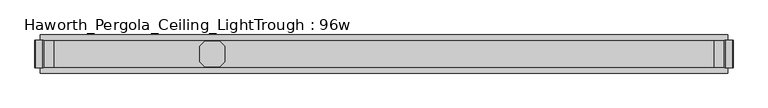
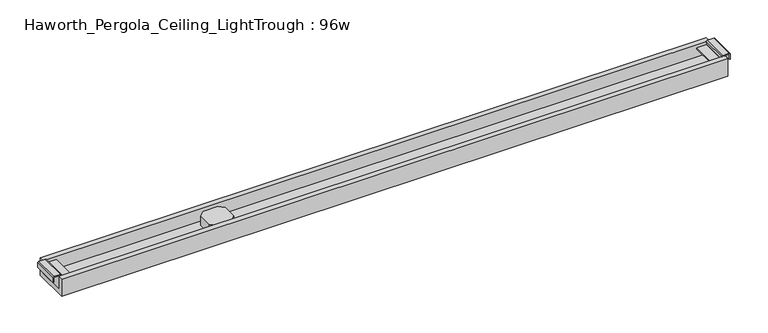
"""IFC4 building model written with IfcOpenShell, lengths in millimetres: furniture geometry, Haworth_Pergola_Ceiling_LightTrough : 96w."""

from ifc_helpers import new_model, si_unit, point, frame, frame_2d, origin, place, context, project, spatial, polyline, circle_curve, trimmed, segment, composite_curve, outline, extrude, source, transform, mapped, element, save


def haworth_pergola_ceiling_lighttrough_96w_28d7c7ed(model_context):
    return source(origin(), model_context, "Body", "SweptSolid", [
        extrude(outline(polyline([(-274.3580002, -26.8840513), (-274.3580002, 26.8840485), (-256.2840485, 44.9580002), (-202.5159516, 44.9580002), (-184.4419998, 26.8840485), (-184.4419998, -26.8840513), (-202.5159516, -44.9580002), (-256.2840485, -44.9580002), (-274.3580002, -26.8840513)])), frame((0.0, 0.0, 2389.4796), z_axis=(0.0, 0.0, 1.0), x_axis=(1.0, 0.0, 0.0)), (0.0, 0.0, 1.0), 38.0999994),
        extrude(outline(composite_curve([segment(polyline([(2418.3545999, 1618.7534303), (2437.4045999, 1618.7534303)]), True, "CONTINUOUS"), segment(trimmed(circle_curve(frame_2d((2437.4045999, 1615.0934293)), 3.660001), [point((2437.4045999, 1618.7534303))], [point((2441.0646008, 1615.0934293))], False, "CARTESIAN"), True, "CONTINUOUS"), segment(polyline([(2441.0646008, 1615.0934293), (2441.0646008, 1591.6934303)]), True, "CONTINUOUS"), segment(trimmed(circle_curve(frame_2d((2437.0478931, 1592.0670697)), 4.0340485), [point((2441.0646008, 1591.6934303))], [point((2437.0478931, 1588.0330212))], False, "CARTESIAN"), True, "CONTINUOUS"), segment(polyline([(2437.0478931, 1588.0330212), (2426.6645986, 1588.0330212), (2425.6646, 1587.0330226), (2425.6646, 1551.5434301), (2423.0046, 1551.5434301), (2423.0046, 1587.0334301), (2423.0046, 1597.4999999), (2389.4796, 1597.4999999), (2389.4796, 1599.4), (2437.0478931, 1599.4), (2437.0478931, 1597.4999999), (2426.6645986, 1597.4999999), (2426.6645986, 1590.69343), (2437.0478931, 1590.69343), (2438.4045979, 1591.6934303), (2438.4045979, 1615.0934316), (2437.4045999, 1616.0934296), (2418.3545999, 1616.0934296), (2418.3545999, 1618.7534303)]), True, "CONTINUOUS")], self_intersect=False)), frame((0.0, -48.650001, 0.0), z_axis=(0.0, 1.0, 0.0), x_axis=(0.0, 0.0, 1.0)), (0.0, 0.0, 1.0), 97.3000021),
        extrude(outline(composite_curve([segment(polyline([(2418.3545999, -858.3534303), (2418.3545999, -855.6934296), (2437.4045999, -855.6934296), (2438.4045979, -854.6934316), (2438.4045979, -831.2934303), (2437.0478931, -830.29343), (2426.6645986, -830.29343), (2426.6645986, -837.1), (2437.0478931, -837.1), (2437.0478931, -839.0), (2389.4796, -839.0), (2389.4796, -837.1), (2423.0046, -837.1), (2423.0046, -826.6334301), (2423.0046, -791.1434301), (2425.6646, -791.1434301), (2425.6646, -826.6330226), (2426.6645986, -827.6330212), (2437.0478931, -827.6330212)]), True, "CONTINUOUS"), segment(trimmed(circle_curve(frame_2d((2437.0478931, -831.6670697)), 4.0340485), [point((2437.0478931, -827.6330212))], [point((2441.0646008, -831.2934303))], False, "CARTESIAN"), True, "CONTINUOUS"), segment(polyline([(2441.0646008, -831.2934303), (2441.0646008, -854.6934294)]), True, "CONTINUOUS"), segment(trimmed(circle_curve(frame_2d((2437.4045999, -854.6934294)), 3.660001), [point((2441.0646008, -854.6934294))], [point((2437.4045999, -858.3534303))], False, "CARTESIAN"), True, "CONTINUOUS"), segment(polyline([(2437.4045999, -858.3534303), (2418.3545999, -858.3534303)]), True, "CONTINUOUS")], self_intersect=False)), frame((0.0, -48.650001, 0.0), z_axis=(0.0, 1.0, 0.0), x_axis=(0.0, 0.0, 1.0)), (0.0, 0.0, 1.0), 97.3000021),
        extrude(outline(polyline([(-67.700001, 2370.4296), (-67.700001, 2437.0478931), (-48.650001, 2437.0478931), (-48.650001, 2389.4796), (48.650001, 2389.4796), (48.650001, 2437.0478931), (67.700001, 2437.0478931), (67.700001, 2370.4296), (-67.700001, 2370.4296)])), frame((-839.0, 0.0, 0.0), z_axis=(1.0, 0.0, 0.0), x_axis=(0.0, 1.0, 0.0)), (0.0, 0.0, 1.0), 2438.4),
    ])


if __name__ == "__main__":
    model = new_model("IFC4")
    model_context = context("Model", 3, world=origin())
    ifc_project = project(units=[si_unit("LENGTHUNIT", "METRE", prefix="MILLI")], contexts=[model_context])
    site = spatial("IfcSite", under=ifc_project)
    building = spatial("IfcBuilding", under=site)
    placement = place(None, origin())
    haworth_pergola_ceiling_lighttrough_96w_shape = haworth_pergola_ceiling_lighttrough_96w_28d7c7ed(model_context)
    element("IfcFurniture", 1, ObjectType="Haworth_Pergola_Ceiling_LightTrough : 96w", at=placement, inside=building, context=model_context, shape_type="MappedRepresentation", body=[
        mapped(haworth_pergola_ceiling_lighttrough_96w_shape, transform((0.0, 0.0, 0.0), x_axis=(1.0, 0.0, 0.0), y_axis=(0.0, 1.0, 0.0), z_axis=(0.0, 0.0, 1.0))),
    ])
    save(model, "model.ifc")
